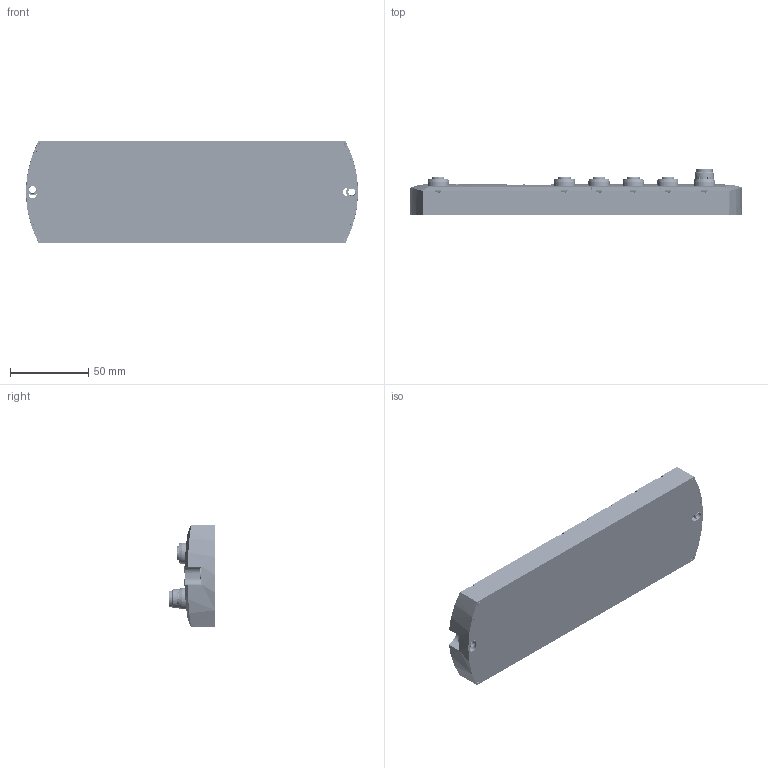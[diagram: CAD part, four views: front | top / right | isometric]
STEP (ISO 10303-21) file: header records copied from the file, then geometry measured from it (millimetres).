
FILE_DESCRIPTION (( 'STEP AP214' ), '1' );
FILE_NAME ('IOLM_8P_IP67_L.STEP', '2018-11-02T14:29:51', ( '' ), ( '' ), 'SwSTEP 2.0', 'SolidWorks 2018', '' );
FILE_SCHEMA (( 'AUTOMOTIVE_DESIGN' ));
Length unit declared in the file: inch
Products named in the file (1): IOLM_8P_IP67_L
Bounding box: 212 x 29.8 x 65 mm (x, y, z)
Volume: 93734.6 mm3; surface area: 122367.3 mm2
Topology: 121 solids, 121 shells, 14602 faces, 39641 edges, 25481 vertices
Faces by surface type: plane 5571, bspline 4222, cylinder 3272, cone 877, torus 650, sphere 10
Entity records: 759791 total; most frequent: CARTESIAN_POINT 263108, ORIENTED_EDGE 79250, DIRECTION 46516, EDGE_CURVE 39625, VERTEX_POINT 25481, B_SPLINE_CURVE_WITH_KNOTS 17903, LINE 16654, VECTOR 16654
